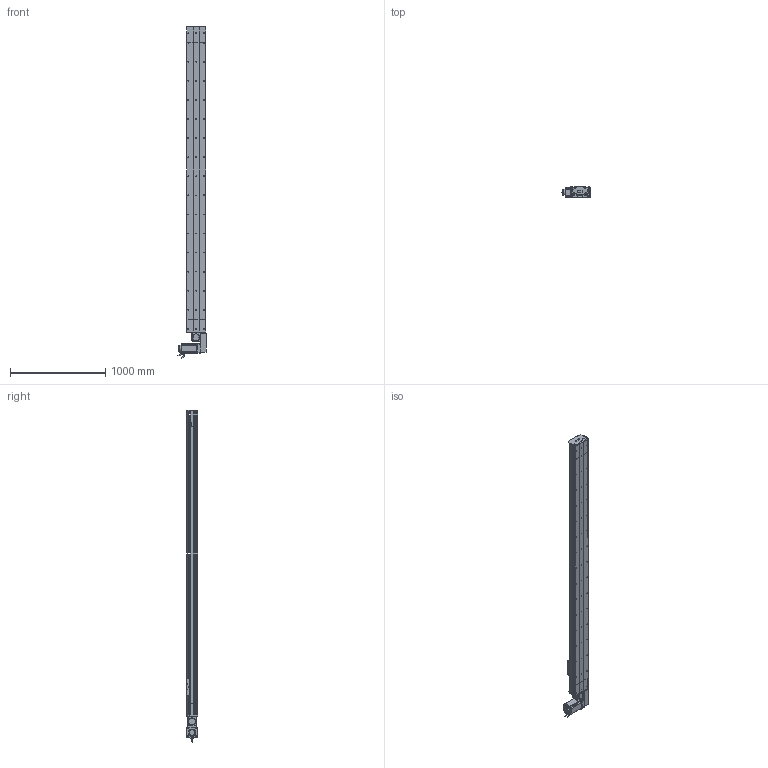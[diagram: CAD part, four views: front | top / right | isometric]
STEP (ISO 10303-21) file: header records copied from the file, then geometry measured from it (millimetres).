
FILE_DESCRIPTION (( 'STEP AP214' ), '1' );
FILE_NAME ('D20 TBH LH S2900.STEP', '2010-07-01T08:27:01', ( 'Conseil Régional Haute-Normandie' ), ( 'Conseil Régional Haute-Normandie' ), 'SwSTEP 2.0', 'SolidWorks 2010', '' );
FILE_SCHEMA (( 'AUTOMOTIVE_DESIGN' ));
Length unit declared in the file: millimetre
Products named in the file (40): chariot D20B_Default; D20 TBH LH S2900; Conecteur_Default; corp D20 S2900_Default; Course B L2900_Default; guide D20B; Chariot D20B; poulie head D20_Default; couroie_Default; rail head D20; plaque de  bout head D20B LH_Default; corpl head D20_Default; rail + couroie  D20 S2900; head LH_Default; couvercle D20 S2900_Default; Conecteur2_Default; Renvoi LH D20_Default; vis M5 L5_Default; cache arbre D20_Default; couvercle head D20_Default; codeur 110BLDC170A-630x; corps 110BLDC170A-630x; cache D20_Default; avant 110BLDC170A-630x; Moteur motionking 110BLDC170A-640x; vis M5 L70_Default; Plaque racord D20LH_Default; clavette; vis M5 L12_Default; tete d''axe poulie D20B; rail tail D20; vis M8 L12_Default; vis M5 L8 90°_Default; vis M5 L25_Default; Couroie tail D20_Default; plaque de  bout tail D20_Default; couvercle tail D20_Default; poulie tail D20_Default; corpl tail D20 +100_Default; tail D20+100_Default
Assembly tree (71 placements, depth 4):
  D20 TBH LH S2900
    head LH_Default
      Plaque racord D20LH_Default
      couvercle head D20_Default
      vis M5 L12_Default  x10
      Renvoi LH D20_Default
      vis M5 L70_Default  x4
      vis M8 L12_Default  x4
      vis M5 L5_Default  x4
      corpl head D20_Default
      vis M5 L25_Default  x2
      poulie head D20_Default
      couroie_Default
      plaque de  bout head D20B LH_Default
      cache D20_Default  x2
      cache arbre D20_Default
      rail head D20
      Moteur motionking 110BLDC170A-640x
        corps 110BLDC170A-630x
        clavette
        codeur 110BLDC170A-630x
        avant 110BLDC170A-630x
        Conecteur2_Default
        Conecteur_Default
    chariot D20B_Default
      vis M5 L12_Default  x4
      guide D20B  x2
      Chariot D20B
    tail D20+100_Default
      tete d''axe poulie D20B
      corpl tail D20 +100_Default
      vis M5 L12_Default  x4
      rail tail D20
      Couroie tail D20_Default
      vis M5 L8 90°_Default  x2
      vis M5 L25_Default  x2
      plaque de  bout tail D20_Default
      poulie tail D20_Default
      couvercle tail D20_Default
    Course B L2900_Default
      couvercle D20 S2900_Default
      corp D20 S2900_Default
      rail + couroie  D20 S2900
Bounding box: 304.2 x 115.7 x 3480 mm (x, y, z)
Volume: 26425072.4 mm3; surface area: 6504641.8 mm2
Topology: 95 solids, 95 shells, 2864 faces, 7362 edges, 4759 vertices
Faces by surface type: plane 1647, cylinder 893, bspline 136, cone 99, torus 89
Entity records: 92757 total; most frequent: CARTESIAN_POINT 30179, ORIENTED_EDGE 11380, DIRECTION 10677, EDGE_CURVE 5690, VERTEX_POINT 3745, VECTOR 3607, LINE 3607, AXIS2_PLACEMENT_3D 3535
